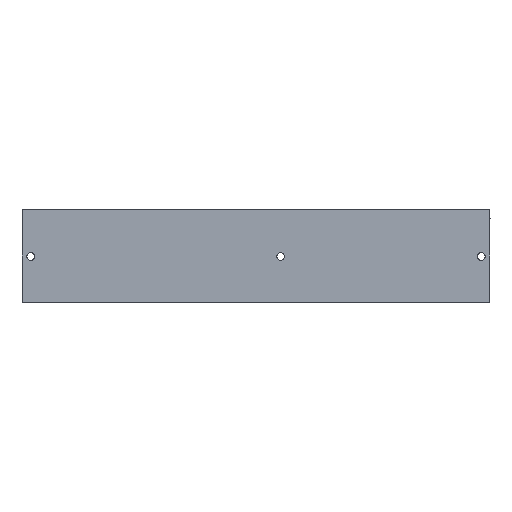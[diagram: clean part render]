
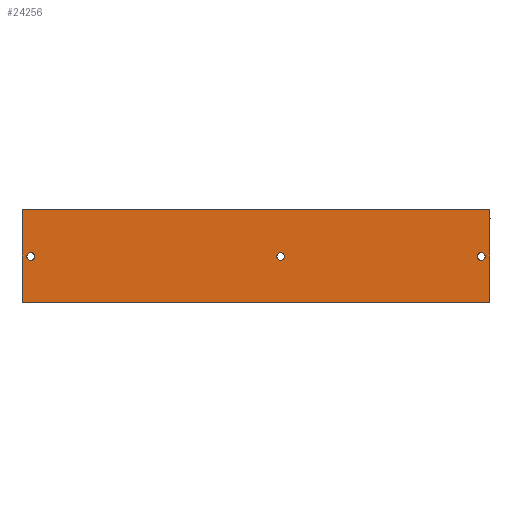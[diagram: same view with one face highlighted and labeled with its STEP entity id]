
A CAD part, front view. The second image highlights one B-rep face of the part: STEP entity #24256.
In plain terms, the highlighted planar face has unit normal (0, -1, 0).
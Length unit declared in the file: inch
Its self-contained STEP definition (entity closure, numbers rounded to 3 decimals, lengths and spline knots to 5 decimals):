
#347 = CIRCLE ( 'NONE', #16760, 0.164 ) ;
#369 = CARTESIAN_POINT ( 'NONE',  ( 11.125, 0., -2.184 ) ) ;
#384 = EDGE_CURVE ( 'NONE', #17387, #33142, #10532, .T. ) ;
#637 = CARTESIAN_POINT ( 'NONE',  ( 11.125, 0., -2.02 ) ) ;
#982 = EDGE_CURVE ( 'NONE', #26741, #17889, #28153, .T. ) ;
#1406 = DIRECTION ( 'NONE',  ( -1., 0., 0. ) ) ;
#1721 = CARTESIAN_POINT ( 'NONE',  ( 19.755, 0., -1.856 ) ) ;
#2219 = DIRECTION ( 'NONE',  ( 0., 0., 1. ) ) ;
#3020 = VERTEX_POINT ( 'NONE', #369 ) ;
#3453 = DIRECTION ( 'NONE',  ( 0., 0., 1. ) ) ;
#3839 = VECTOR ( 'NONE', #5214, 39.37008 ) ;
#3841 = ORIENTED_EDGE ( 'NONE', *, *, #17691, .T. ) ;
#3846 = CARTESIAN_POINT ( 'NONE',  ( 20.13, 0., -4. ) ) ;
#4083 = CIRCLE ( 'NONE', #14504, 0.164 ) ;
#4391 = VERTEX_POINT ( 'NONE', #16833 ) ;
#4716 = PLANE ( 'NONE',  #7857 ) ;
#4859 = CARTESIAN_POINT ( 'NONE',  ( 0., 0., -4. ) ) ;
#5214 = DIRECTION ( 'NONE',  ( 0., 0., -1. ) ) ;
#6038 = CIRCLE ( 'NONE', #12345, 0.164 ) ;
#6452 = AXIS2_PLACEMENT_3D ( 'NONE', #13329, #13184, #12955 ) ;
#7263 = LINE ( 'NONE', #12800, #35781 ) ;
#7771 = EDGE_CURVE ( 'NONE', #4391, #17387, #25756, .T. ) ;
#7857 = AXIS2_PLACEMENT_3D ( 'NONE', #26702, #10213, #29497 ) ;
#8789 = VECTOR ( 'NONE', #1406, 39.37008 ) ;
#10000 = VECTOR ( 'NONE', #15316, 39.37008 ) ;
#10107 = FACE_BOUND ( 'NONE', #11209, .T. ) ;
#10213 = DIRECTION ( 'NONE',  ( 0., 1., 0. ) ) ;
#10222 = ORIENTED_EDGE ( 'NONE', *, *, #32147, .T. ) ;
#10532 = LINE ( 'NONE', #3846, #8789 ) ;
#11209 = EDGE_LOOP ( 'NONE', ( #23607, #32285 ) ) ;
#11843 = EDGE_CURVE ( 'NONE', #22877, #14323, #4083, .T. ) ;
#12025 = ORIENTED_EDGE ( 'NONE', *, *, #384, .F. ) ;
#12345 = AXIS2_PLACEMENT_3D ( 'NONE', #35251, #18692, #2219 ) ;
#12542 = CARTESIAN_POINT ( 'NONE',  ( 0., 0., 0. ) ) ;
#12800 = CARTESIAN_POINT ( 'NONE',  ( 20.13, 0., 0. ) ) ;
#12955 = DIRECTION ( 'NONE',  ( 0., 0., 1. ) ) ;
#13184 = DIRECTION ( 'NONE',  ( 0., 1., 0. ) ) ;
#13329 = CARTESIAN_POINT ( 'NONE',  ( 19.755, 0., -2.02 ) ) ;
#13532 = VERTEX_POINT ( 'NONE', #15219 ) ;
#13793 = EDGE_LOOP ( 'NONE', ( #3841, #10222 ) ) ;
#13866 = AXIS2_PLACEMENT_3D ( 'NONE', #31617, #15107, #34424 ) ;
#14188 = CARTESIAN_POINT ( 'NONE',  ( 11.125, 0., -2.02 ) ) ;
#14323 = VERTEX_POINT ( 'NONE', #27086 ) ;
#14504 = AXIS2_PLACEMENT_3D ( 'NONE', #14783, #34129, #17580 ) ;
#14783 = CARTESIAN_POINT ( 'NONE',  ( 0.375, 0., -2.02 ) ) ;
#15068 = CIRCLE ( 'NONE', #13866, 0.164 ) ;
#15107 = DIRECTION ( 'NONE',  ( 0., 1., 0. ) ) ;
#15219 = CARTESIAN_POINT ( 'NONE',  ( 0., 0., 0. ) ) ;
#15283 = CARTESIAN_POINT ( 'NONE',  ( 19.755, 0., -2.184 ) ) ;
#15316 = DIRECTION ( 'NONE',  ( 0., 0., -1. ) ) ;
#15720 = FACE_OUTER_BOUND ( 'NONE', #22859, .T. ) ;
#15907 = AXIS2_PLACEMENT_3D ( 'NONE', #14188, #33500, #16953 ) ;
#16704 = CARTESIAN_POINT ( 'NONE',  ( 11.125, 0., -1.856 ) ) ;
#16760 = AXIS2_PLACEMENT_3D ( 'NONE', #637, #19889, #3453 ) ;
#16833 = CARTESIAN_POINT ( 'NONE',  ( 20.13, 0., 0. ) ) ;
#16953 = DIRECTION ( 'NONE',  ( 0., 0., 1. ) ) ;
#17387 = VERTEX_POINT ( 'NONE', #26035 ) ;
#17489 = CIRCLE ( 'NONE', #15907, 0.164 ) ;
#17580 = DIRECTION ( 'NONE',  ( 0., 0., 1. ) ) ;
#17691 = EDGE_CURVE ( 'NONE', #24813, #3020, #347, .T. ) ;
#17889 = VERTEX_POINT ( 'NONE', #1721 ) ;
#18045 = ORIENTED_EDGE ( 'NONE', *, *, #982, .T. ) ;
#18692 = DIRECTION ( 'NONE',  ( 0., 1., 0. ) ) ;
#19889 = DIRECTION ( 'NONE',  ( 0., 1., 0. ) ) ;
#20652 = CARTESIAN_POINT ( 'NONE',  ( 0.375, 0., -2.184 ) ) ;
#20662 = ORIENTED_EDGE ( 'NONE', *, *, #7771, .F. ) ;
#21998 = ORIENTED_EDGE ( 'NONE', *, *, #29439, .T. ) ;
#22859 = EDGE_LOOP ( 'NONE', ( #24938, #12025, #20662, #21998 ) ) ;
#22877 = VERTEX_POINT ( 'NONE', #20652 ) ;
#23607 = ORIENTED_EDGE ( 'NONE', *, *, #25039, .T. ) ;
#23640 = ORIENTED_EDGE ( 'NONE', *, *, #28760, .T. ) ;
#24256 = ADVANCED_FACE ( 'NONE', ( #30403, #10107, #24745, #15720 ), #4716, .F. ) ;
#24745 = FACE_BOUND ( 'NONE', #26266, .T. ) ;
#24813 = VERTEX_POINT ( 'NONE', #16704 ) ;
#24938 = ORIENTED_EDGE ( 'NONE', *, *, #34340, .T. ) ;
#25039 = EDGE_CURVE ( 'NONE', #14323, #22877, #15068, .T. ) ;
#25756 = LINE ( 'NONE', #35479, #3839 ) ;
#26035 = CARTESIAN_POINT ( 'NONE',  ( 20.13, 0., -4. ) ) ;
#26266 = EDGE_LOOP ( 'NONE', ( #23640, #18045 ) ) ;
#26702 = CARTESIAN_POINT ( 'NONE',  ( 20.13, 0., 0. ) ) ;
#26741 = VERTEX_POINT ( 'NONE', #15283 ) ;
#27086 = CARTESIAN_POINT ( 'NONE',  ( 0.375, 0., -1.856 ) ) ;
#28153 = CIRCLE ( 'NONE', #6452, 0.164 ) ;
#28760 = EDGE_CURVE ( 'NONE', #17889, #26741, #6038, .T. ) ;
#29324 = DIRECTION ( 'NONE',  ( -1., 0., 0. ) ) ;
#29439 = EDGE_CURVE ( 'NONE', #4391, #13532, #7263, .T. ) ;
#29497 = DIRECTION ( 'NONE',  ( 0., 0., 1. ) ) ;
#30403 = FACE_BOUND ( 'NONE', #13793, .T. ) ;
#31617 = CARTESIAN_POINT ( 'NONE',  ( 0.375, 0., -2.02 ) ) ;
#32032 = LINE ( 'NONE', #12542, #10000 ) ;
#32147 = EDGE_CURVE ( 'NONE', #3020, #24813, #17489, .T. ) ;
#32285 = ORIENTED_EDGE ( 'NONE', *, *, #11843, .T. ) ;
#33142 = VERTEX_POINT ( 'NONE', #4859 ) ;
#33500 = DIRECTION ( 'NONE',  ( 0., 1., 0. ) ) ;
#34129 = DIRECTION ( 'NONE',  ( 0., 1., 0. ) ) ;
#34340 = EDGE_CURVE ( 'NONE', #13532, #33142, #32032, .T. ) ;
#34424 = DIRECTION ( 'NONE',  ( 0., 0., 1. ) ) ;
#35251 = CARTESIAN_POINT ( 'NONE',  ( 19.755, 0., -2.02 ) ) ;
#35479 = CARTESIAN_POINT ( 'NONE',  ( 20.13, 0., 0. ) ) ;
#35781 = VECTOR ( 'NONE', #29324, 39.37008 ) ;
